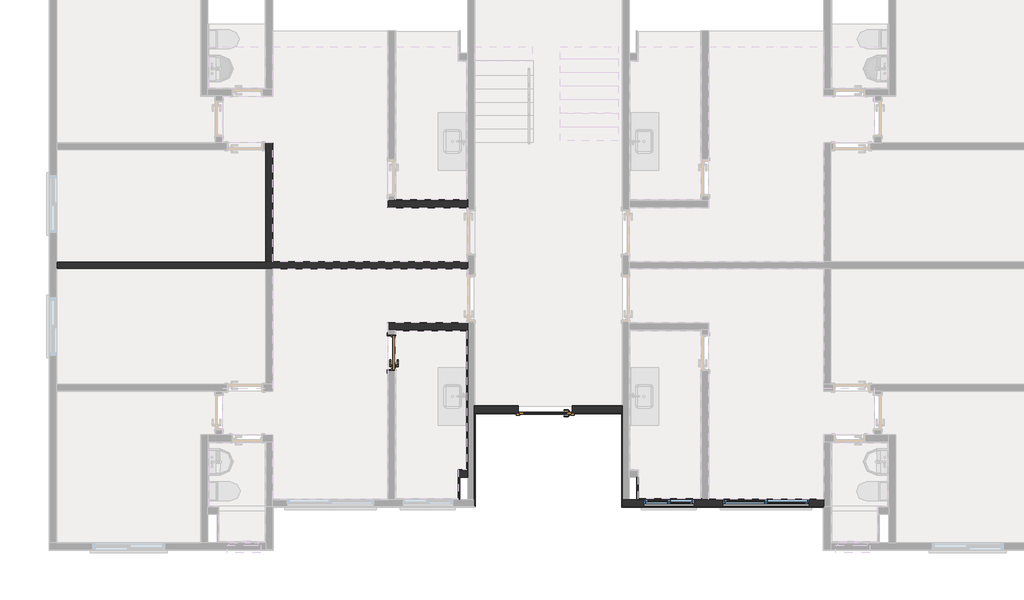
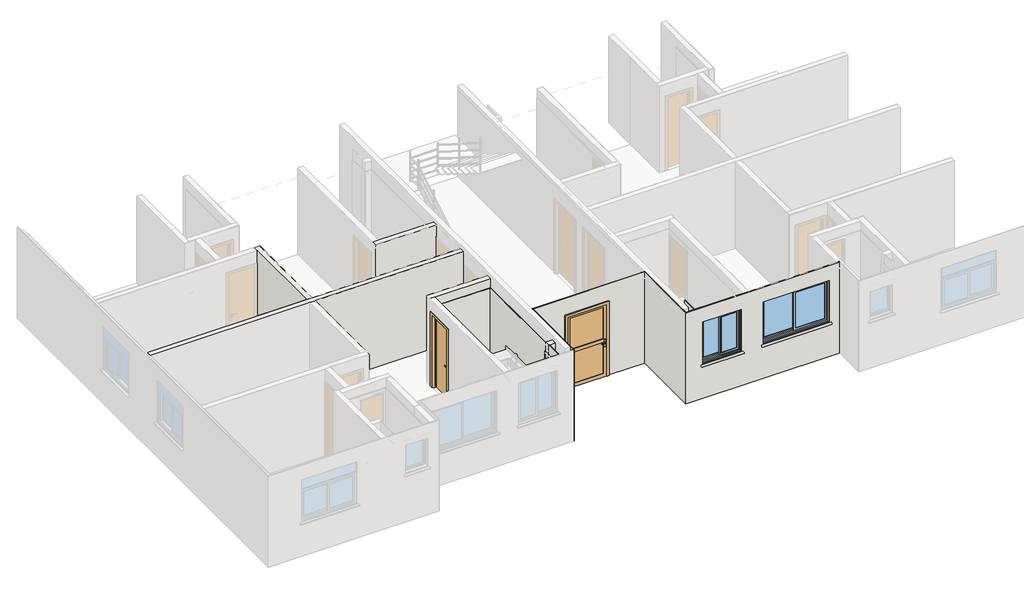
# One storey, part 3 of 11: 29 walls, 2 doors, 2 windows.
"""IFC4 building model written with IfcOpenShell, lengths in millimetres."""

from ifc_helpers import new_model, si_unit, frame, origin, origin_with_axes, place, context, project, spatial, polyline, outline, extrude, faceted_brep, transform, mapped, element, save
from components import porta_de_entrada_torre_110x210_d7ea5157, porta_de_madeira_interna_70_x_210_porta_de_madeira_interna_f307109d, window_105x120_428ac20c, window_180x120_e659ab7e

model = new_model("IFC4")

# Units and contexts
model_context = context("Model", 3, world=origin())
ifc_project = project(units=[si_unit("LENGTHUNIT", "METRE", prefix="MILLI")], contexts=[model_context])

# Site, building, storey
site = spatial("IfcSite", under=ifc_project)
building = spatial("IfcBuilding", under=site)
storey = spatial("IfcBuildingStorey", under=building, Name="Térreo", Elevation=0.0)

# Doors
placement = place(None, origin())
porta_de_entrada_torre_110x210_shape = porta_de_entrada_torre_110x210_d7ea5157(model_context)
element("IfcDoor", 1, ObjectType="Porta de Entrada Torre : 110x210", at=placement, inside=storey, context=model_context, shape_type="MappedRepresentation", body=[
    mapped(porta_de_entrada_torre_110x210_shape, transform((10345.9990083, 3322.00443, 0.0), x_axis=(-1.0, 0.0, 0.0), y_axis=(0.0, -1.0, 0.0), z_axis=(0.0, 0.0, 1.0))),
])
porta_de_madeira_interna_70_x_210_porta_de_madeira_interna_shape = porta_de_madeira_interna_70_x_210_porta_de_madeira_interna_f307109d(model_context)
element("IfcDoor", 2, ObjectType="Porta de Madeira Interna 70 x 210 : Porta de Madeira Interna 70 x 210", at=placement, inside=storey, context=model_context, shape_type="MappedRepresentation", body=[
    mapped(porta_de_madeira_interna_70_x_210_porta_de_madeira_interna_shape, transform((7146.1736861, 4578.6603139, 0.0), x_axis=(0.0, 1.0, 0.0), y_axis=(-1.0, 0.0, 0.0), z_axis=(0.0, 0.0, 1.0))),
])

# Walls
element("IfcWall", 3, ObjectType="Alvenaria Estrutural", at=placement, inside=storey, context=model_context, shape_type="Brep", body=[
    faceted_brep([(175.9991825, 6330.0103139, 0.0), (169.9991825, 6330.0103139, 0.0), (169.9991825, 6470.0103139, 0.0), (175.9991825, 6470.0103139, 0.0), (4523.9996867, 6470.0103139, 0.0), (4529.9996867, 6470.0103139, 0.0), (4669.9996867, 6470.0103139, 0.0), (4675.9996867, 6470.0103139, 0.0), (8723.9963008, 6470.0103139, 0.0), (8729.9963008, 6470.0103139, 0.0), (8729.9963008, 6330.0103139, 0.0), (8723.9963008, 6330.0103139, 0.0), (4675.9996867, 6330.0103139, 0.0), (4669.9996867, 6330.0103139, 0.0), (4529.9996867, 6330.0103139, 0.0), (4523.9996867, 6330.0103139, 0.0), (169.9991825, 6470.0103139, 2510.0), (175.9991825, 6470.0103139, 2510.0), (4523.9996867, 6470.0103139, 2510.0), (4529.9996867, 6470.0103139, 2510.0), (4669.9996867, 6470.0103139, 2510.0), (4675.9996867, 6470.0103139, 2510.0), (8723.9963008, 6470.0103139, 2510.0), (8729.9963008, 6470.0103139, 2510.0), (8729.9963008, 6330.0103139, 2510.0), (8723.9963008, 6330.0103139, 2510.0), (4675.9996867, 6330.0103139, 2510.0), (4669.9996867, 6330.0103139, 2510.0), (4529.9996867, 6330.0103139, 2510.0), (4523.9996867, 6330.0103139, 2510.0), (175.9991825, 6330.0103139, 2510.0), (169.9991825, 6330.0103139, 2510.0)], [[[0, 1, 2, 3, 4, 5, 6, 7, 8, 9, 10, 11, 12, 13, 14, 15]], [[2, 16, 17, 18, 19, 20, 21, 22, 23, 9, 8, 7, 6, 5, 4, 3]], [[1, 0, 15, 14, 13, 12, 11, 10, 24, 25, 26, 27, 28, 29, 30, 31]], [[25, 24, 23, 22, 21, 20, 19, 18, 17, 16, 31, 30, 29, 28, 27, 26]], [[24, 10, 9, 23]], [[1, 31, 16, 2]]]),
    faceted_brep([(169.9991825, 6330.0103139, 0.0), (175.9991825, 6330.0103139, 0.0), (4523.9996867, 6330.0103139, 0.0), (4529.9996867, 6330.0103139, 0.0), (4669.9996867, 6330.0103139, 0.0), (4675.9996867, 6330.0103139, 0.0), (8723.9963008, 6330.0103139, 0.0), (8729.9963008, 6330.0103139, 0.0), (8729.9963008, 6330.0103139, 2510.0), (8723.9963008, 6330.0103139, 2510.0), (4675.9996867, 6330.0103139, 2510.0), (4669.9996867, 6330.0103139, 2510.0), (4529.9996867, 6330.0103139, 2510.0), (4523.9996867, 6330.0103139, 2510.0), (175.9991825, 6330.0103139, 2510.0), (169.9991825, 6330.0103139, 2510.0), (169.9991825, 6470.0103139, 0.0), (169.9991825, 6470.0103139, 2510.0), (175.9991825, 6470.0103139, 2510.0), (4523.9996867, 6470.0103139, 2510.0), (4529.9996867, 6470.0103139, 2510.0), (4669.9996867, 6470.0103139, 2510.0), (4675.9996867, 6470.0103139, 2510.0), (8723.9963008, 6470.0103139, 2510.0), (8729.9963008, 6470.0103139, 2510.0), (8729.9963008, 6470.0103139, 0.0), (8723.9963008, 6470.0103139, 0.0), (4675.9996867, 6470.0103139, 0.0), (4669.9996867, 6470.0103139, 0.0), (4529.9996867, 6470.0103139, 0.0), (4523.9996867, 6470.0103139, 0.0), (175.9991825, 6470.0103139, 0.0)], [[[0, 1, 2, 3, 4, 5, 6, 7, 8, 9, 10, 11, 12, 13, 14, 15]], [[16, 17, 18, 19, 20, 21, 22, 23, 24, 25, 26, 27, 28, 29, 30, 31]], [[1, 0, 16, 31, 30, 29, 28, 27, 26, 25, 7, 6, 5, 4, 3, 2]], [[9, 8, 24, 23, 22, 21, 20, 19, 18, 17, 15, 14, 13, 12, 11, 10]], [[8, 7, 25, 24]], [[0, 15, 17, 16]]]),
])
element("IfcWall", 4, ObjectType="Alvenaria Estrutural", at=placement, inside=storey, context=model_context, shape_type="Brep", body=[
    faceted_brep([(4669.9996867, 6476.0103139, 0.0), (4669.9996867, 6470.0103139, 0.0), (4529.9996867, 6470.0103139, 0.0), (4529.9996867, 6476.0103139, 0.0), (4529.9996867, 8804.0244803, 0.0), (4529.9996867, 8810.0244803, 0.0), (4529.9996867, 8950.0244803, 0.0), (4669.9996867, 8950.0244803, 0.0), (4669.9996867, 6476.0103139, 2510.0), (4669.9996867, 8950.0244803, 2510.0), (4529.9996867, 8950.0244803, 2510.0), (4529.9996867, 8810.0244803, 2510.0), (4529.9996867, 8804.0244803, 2510.0), (4529.9996867, 6476.0103139, 2510.0), (4529.9996867, 6470.0103139, 2510.0), (4669.9996867, 6470.0103139, 2510.0)], [[[0, 1, 2, 3, 4, 5, 6, 7]], [[8, 9, 10, 11, 12, 13, 14, 15]], [[1, 0, 7, 9, 8, 15]], [[2, 14, 13, 12, 11, 10, 6, 5, 4, 3]], [[9, 7, 6, 10]], [[1, 15, 14, 2]]]),
    faceted_brep([(4669.9996867, 6470.0103139, 0.0), (4669.9996867, 6476.0103139, 0.0), (4669.9996867, 8950.0244803, 0.0), (4669.9996867, 8950.0244803, 2510.0), (4669.9996867, 6476.0103139, 2510.0), (4669.9996867, 6470.0103139, 2510.0), (4529.9996867, 6470.0103139, 0.0), (4529.9996867, 6470.0103139, 2510.0), (4529.9996867, 6476.0103139, 2510.0), (4529.9996867, 8804.0244803, 2510.0), (4529.9996867, 8810.0244803, 2510.0), (4529.9996867, 8950.0244803, 2510.0), (4529.9996867, 8950.0244803, 0.0), (4529.9996867, 8810.0244803, 0.0), (4529.9996867, 8804.0244803, 0.0), (4529.9996867, 6476.0103139, 0.0)], [[[0, 1, 2, 3, 4, 5]], [[6, 7, 8, 9, 10, 11, 12, 13, 14, 15]], [[1, 0, 6, 15, 14, 13, 12, 2]], [[4, 3, 11, 10, 9, 8, 7, 5]], [[3, 2, 12, 11]], [[0, 5, 7, 6]]]),
])
element("IfcWall", 5, ObjectType="Alvenaria Estrutural", at=placement, inside=storey, context=model_context, shape_type="Brep", body=[
    faceted_brep([(8886.0600094, 3330.00443, 0.0), (8869.9953936, 3330.00443, 0.0), (8869.9953936, 3470.00443, 0.0), (8875.9991022, 3470.00443, 0.0), (9785.9990083, 3470.00443, 0.0), (9785.9990083, 3330.00443, 0.0), (9745.9990083, 3330.00443, 0.0), (8869.9953936, 3330.00443, 2510.0), (8869.9953936, 3470.00443, 2510.0), (11944.9956991, 3330.00443, 2510.0), (11944.9956991, 3470.00443, 2510.0), (11943.9984066, 3470.00443, 2510.0), (8875.9991022, 3470.00443, 2510.0), (10945.9990083, 3330.00443, 0.0), (10905.9990083, 3330.00443, 0.0), (10905.9990083, 3470.00443, 0.0), (11943.9984066, 3470.00443, 0.0), (11944.9956991, 3470.00443, 0.0), (11944.9956991, 3330.00443, 0.0), (11933.9956991, 3330.00443, 0.0), (9785.9990083, 3330.00443, 2110.0), (10905.9990083, 3330.00443, 2110.0), (10905.9990083, 3470.00443, 2110.0), (9785.9990083, 3470.00443, 2110.0)], [[[0, 1, 2, 3, 4, 5, 6]], [[1, 7, 8, 2]], [[7, 9, 10, 11, 12, 8]], [[13, 14, 15, 16, 17, 18, 19]], [[7, 1, 0, 6, 5, 20, 21, 14, 13, 19, 18, 9]], [[2, 8, 12, 11, 10, 17, 16, 15, 22, 23, 4, 3]], [[9, 18, 17, 10]], [[21, 20, 23, 22]], [[14, 21, 22, 15]], [[20, 5, 4, 23]]]),
    faceted_brep([(8869.9953936, 3330.00443, 2510.0), (8869.9953936, 3330.00443, 0.0), (8886.0600094, 3330.00443, 0.0), (9745.9990083, 3330.00443, 0.0), (9785.9990083, 3330.00443, 0.0), (9785.9990083, 3330.00443, 2110.0), (10905.9990083, 3330.00443, 2110.0), (10905.9990083, 3330.00443, 0.0), (10945.9990083, 3330.00443, 0.0), (11933.9956991, 3330.00443, 0.0), (11944.9956991, 3330.00443, 0.0), (11944.9956991, 3330.00443, 2510.0), (8869.9953936, 3470.00443, 0.0), (8869.9953936, 3470.00443, 2510.0), (8875.9991022, 3470.00443, 2510.0), (11943.9984066, 3470.00443, 2510.0), (11944.9956991, 3470.00443, 2510.0), (11944.9956991, 3470.00443, 0.0), (11943.9984066, 3470.00443, 0.0), (10905.9990083, 3470.00443, 0.0), (10905.9990083, 3470.00443, 2110.0), (9785.9990083, 3470.00443, 2110.0), (9785.9990083, 3470.00443, 0.0), (8875.9991022, 3470.00443, 0.0)], [[[0, 1, 2, 3, 4, 5, 6, 7, 8, 9, 10, 11]], [[12, 13, 14, 15, 16, 17, 18, 19, 20, 21, 22, 23]], [[2, 1, 12, 23, 22, 4, 3]], [[1, 0, 13, 12]], [[0, 11, 16, 15, 14, 13]], [[6, 5, 21, 20]], [[7, 6, 20, 19]], [[5, 4, 22, 21]], [[8, 7, 19, 18, 17, 10, 9]], [[11, 10, 17, 16]]]),
])
element("IfcWall", 6, ObjectType="Alvenaria Estrutural", at=placement, inside=storey, context=model_context, shape_type="Brep", body=[
    faceted_brep([(8729.9963008, 2125.0132549, 0.0), (8709.9963008, 2125.0132549, 0.0), (8546.99631, 2125.0132549, 0.0), (8546.99631, 2125.0132549, 2510.0), (8729.9963008, 2125.0132549, 2510.0), (8729.9963008, 2125.0132549, 2250.0), (8729.9963008, 1985.0132549, 0.0), (8569.99631, 1985.0132549, 0.0), (8546.99631, 1985.0132549, 0.0), (8546.99631, 1985.0132549, 2510.0), (8569.99631, 1985.0132549, 2510.0), (8729.9963008, 1985.0132549, 2510.0)], [[[0, 1, 2, 3, 4, 5]], [[1, 0, 6, 7, 8, 2]], [[4, 3, 9, 10, 11]], [[6, 11, 10, 9, 8, 7]], [[3, 2, 8, 9]], [[5, 4, 11, 6, 0]]]),
    faceted_brep([(8729.9963008, 2125.0132549, 0.0), (8709.9963008, 2125.0132549, 0.0), (8546.99631, 2125.0132549, 0.0), (8546.99631, 2125.0132549, 2510.0), (8729.9963008, 2125.0132549, 2510.0), (8729.9963008, 2125.0132549, 2250.0), (8729.9963008, 1985.0132549, 0.0), (8729.9963008, 1985.0132549, 2510.0), (8569.99631, 1985.0132549, 2510.0), (8546.99631, 1985.0132549, 2510.0), (8546.99631, 1985.0132549, 0.0), (8569.99631, 1985.0132549, 0.0)], [[[0, 1, 2, 3, 4, 5]], [[6, 7, 8, 9, 10, 11]], [[1, 0, 6, 11, 10, 2]], [[4, 3, 9, 8, 7]], [[3, 2, 10, 9]], [[5, 4, 7, 6, 0]]]),
])
element("IfcWall", 7, ObjectType="Alvenaria Estrutural", at=placement, inside=storey, context=model_context, shape_type="Brep", body=[
    faceted_brep([(8729.9963008, 5193.6603139, 0.0), (8723.9963008, 5193.6603139, 0.0), (7072.9986861, 5193.6603139, 0.0), (7072.9986861, 5193.6603139, 2510.0), (8723.9963008, 5193.6603139, 2510.0), (8729.9963008, 5193.6603139, 2510.0), (8729.9963008, 5053.6603139, 0.0), (8729.9963008, 5053.6603139, 2250.0), (8729.9963008, 5053.6603139, 2510.0), (7212.9986861, 5053.6603139, 2510.0), (7072.9986861, 5053.6603139, 2510.0), (7072.9986861, 5053.6603139, 0.0), (7212.9986861, 5053.6603139, 0.0), (7233.0017324, 5053.6603139, 0.0), (8709.9963008, 5053.6603139, 0.0)], [[[0, 1, 2, 3, 4, 5]], [[6, 7, 8, 9, 10, 11, 12, 13, 14]], [[1, 0, 6, 14, 13, 12, 11, 2]], [[4, 3, 10, 9, 8, 5]], [[3, 2, 11, 10]], [[0, 5, 8, 7, 6]]]),
])
element("IfcWall", 8, ObjectType="Alvenaria Estrutural", at=placement, inside=storey, context=model_context, shape_type="Brep", body=[
    faceted_brep([(8729.9963008, 7746.3603139, 0.0), (8709.9963008, 7746.3603139, 0.0), (7233.0017324, 7746.3603139, 0.0), (7212.9986861, 7746.3603139, 0.0), (7072.9986861, 7746.3603139, 0.0), (7072.9986861, 7746.3603139, 2510.0), (7212.9986861, 7746.3603139, 2510.0), (8729.9963008, 7746.3603139, 2510.0), (8729.9963008, 7746.3603139, 2250.0), (8729.9963008, 7606.3603139, 0.0), (8729.9963008, 7606.3603139, 2510.0), (8723.9963008, 7606.3603139, 2510.0), (7072.9986861, 7606.3603139, 2510.0), (7072.9986861, 7606.3603139, 0.0), (8723.9963008, 7606.3603139, 0.0)], [[[0, 1, 2, 3, 4, 5, 6, 7, 8]], [[9, 10, 11, 12, 13, 14]], [[1, 0, 9, 14, 13, 4, 3, 2]], [[6, 5, 12, 11, 10, 7]], [[5, 4, 13, 12]], [[8, 7, 10, 9, 0]]]),
])
element("IfcWall", 9, ObjectType="Alvenaria Estrutural", at=placement, inside=storey, context=model_context, shape_type="Brep", body=[
    faceted_brep([(11949.9956991, 1519.9983274, 2520.0), (11949.9956991, 1519.9983274, 10.0), (11949.9956991, 1379.9983274, 10.0), (11949.9956991, 1379.9983274, 2520.0), (16149.9956991, 1519.9983274, 2520.0), (16149.9956991, 1379.9983274, 2520.0), (16149.9956991, 1519.9983274, 2510.0), (16149.9956991, 1379.9983274, 10.0), (16149.9956991, 1449.9983274, 10.0), (16149.9956991, 1519.9983274, 10.0), (12344.9954974, 1379.9983274, 1000.0), (12344.9954974, 1379.9983274, 951.3083694), (12344.9954974, 1477.4983274, 972.0326341), (12344.9954974, 1477.4983274, 1000.0), (13494.9954974, 1379.9983274, 951.3083694), (13494.9954974, 1379.9983274, 1000.0), (13494.9954974, 1477.4983274, 1000.0), (13494.9954974, 1477.4983274, 972.0326341), (13444.9954974, 1477.4983274, 1000.0), (12394.9954974, 1477.4983274, 1000.0), (12394.9954974, 1379.9983274, 1000.0), (12394.9954974, 1519.9983274, 1000.0), (12394.9954974, 1519.9983274, 2200.0), (12394.9954974, 1379.9983274, 2200.0), (13444.9954974, 1519.9983274, 2200.0), (13444.9954974, 1379.9983274, 2200.0), (13444.9954974, 1519.9983274, 1000.0), (13444.9954974, 1379.9983274, 1000.0), (16133.9960602, 1379.9983274, 10.0), (15894.9954574, 1379.9983274, 1000.0), (15894.9954574, 1379.9983274, 951.3083694), (13994.9954574, 1379.9983274, 951.3083694), (13994.9954574, 1379.9983274, 1000.0), (14044.9954574, 1379.9983274, 1000.0), (14044.9954574, 1379.9983274, 2200.0), (15844.9954574, 1379.9983274, 2200.0), (15844.9954574, 1379.9983274, 1000.0), (16143.9956991, 1519.9983274, 10.0), (14044.9954574, 1519.9983274, 2200.0), (14044.9954574, 1519.9983274, 1000.0), (15844.9954574, 1519.9983274, 1000.0), (15844.9954574, 1519.9983274, 2200.0), (15894.9954574, 1477.4983274, 1000.0), (15894.9954574, 1477.4983274, 972.0326341), (13994.9954574, 1477.4983274, 972.0326341), (13994.9954574, 1477.4983274, 1000.0), (15844.9954574, 1477.4983274, 1000.0), (14044.9954574, 1477.4983274, 1000.0)], [[[0, 1, 2, 3]], [[4, 0, 3, 5]], [[6, 4, 5, 7, 8, 9]], [[10, 11, 12, 13]], [[14, 15, 16, 17]], [[13, 12, 17, 16, 18, 19]], [[20, 10, 13, 19]], [[11, 14, 17, 12]], [[21, 22, 23, 20, 19]], [[22, 24, 25, 23]], [[24, 26, 18, 27, 25]], [[26, 21, 19, 18]], [[15, 27, 18, 16]], [[7, 5, 3, 2, 28], [29, 30, 31, 32, 33, 34, 35, 36], [20, 23, 25, 27, 15, 14, 11, 10]], [[1, 0, 4, 6, 9, 37], [22, 21, 26, 24], [38, 39, 40, 41]], [[30, 29, 42, 43]], [[32, 31, 44, 45]], [[43, 42, 46, 47, 45, 44]], [[29, 36, 46, 42]], [[31, 30, 43, 44]], [[39, 38, 34, 33, 47]], [[38, 41, 35, 34]], [[41, 40, 46, 36, 35]], [[40, 39, 47, 46]], [[33, 32, 45, 47]], [[37, 9, 8, 7, 28, 2, 1]]]),
    faceted_brep([(16149.9956991, 1519.9983274, 10.0), (16143.9956991, 1519.9983274, 10.0), (11949.9956991, 1519.9983274, 10.0), (11949.9956991, 1519.9983274, 2520.0), (16149.9956991, 1519.9983274, 2520.0), (16149.9956991, 1519.9983274, 2510.0), (12394.9954974, 1519.9983274, 2200.0), (12394.9954974, 1519.9983274, 1000.0), (13444.9954974, 1519.9983274, 1000.0), (13444.9954974, 1519.9983274, 2200.0), (14044.9954574, 1519.9983274, 2200.0), (14044.9954574, 1519.9983274, 1000.0), (15844.9954574, 1519.9983274, 1000.0), (15844.9954574, 1519.9983274, 2200.0), (11949.9956991, 1379.9983274, 10.0), (16133.9960602, 1379.9983274, 10.0), (16149.9956991, 1379.9983274, 10.0), (16149.9956991, 1379.9983274, 2520.0), (11949.9956991, 1379.9983274, 2520.0), (12394.9954974, 1379.9983274, 1000.0), (12394.9954974, 1379.9983274, 2200.0), (13444.9954974, 1379.9983274, 2200.0), (13444.9954974, 1379.9983274, 1000.0), (13494.9954974, 1379.9983274, 1000.0), (13494.9954974, 1379.9983274, 951.3083694), (12344.9954974, 1379.9983274, 951.3083694), (12344.9954974, 1379.9983274, 1000.0), (15894.9954574, 1379.9983274, 1000.0), (15894.9954574, 1379.9983274, 951.3083694), (13994.9954574, 1379.9983274, 951.3083694), (13994.9954574, 1379.9983274, 1000.0), (14044.9954574, 1379.9983274, 1000.0), (14044.9954574, 1379.9983274, 2200.0), (15844.9954574, 1379.9983274, 2200.0), (15844.9954574, 1379.9983274, 1000.0), (16149.9956991, 1449.9983274, 10.0), (12344.9954974, 1477.4983274, 972.0326341), (12344.9954974, 1477.4983274, 1000.0), (13494.9954974, 1477.4983274, 1000.0), (13494.9954974, 1477.4983274, 972.0326341), (13444.9954974, 1477.4983274, 1000.0), (12394.9954974, 1477.4983274, 1000.0), (15894.9954574, 1477.4983274, 1000.0), (15894.9954574, 1477.4983274, 972.0326341), (13994.9954574, 1477.4983274, 972.0326341), (13994.9954574, 1477.4983274, 1000.0), (15844.9954574, 1477.4983274, 1000.0), (14044.9954574, 1477.4983274, 1000.0)], [[[0, 1, 2, 3, 4, 5], [6, 7, 8, 9], [10, 11, 12, 13]], [[14, 15, 16, 17, 18], [19, 20, 21, 22, 23, 24, 25, 26], [27, 28, 29, 30, 31, 32, 33, 34]], [[1, 0, 35, 16, 15, 14, 2]], [[3, 2, 14, 18]], [[4, 3, 18, 17]], [[5, 4, 17, 16, 35, 0]], [[26, 25, 36, 37]], [[24, 23, 38, 39]], [[37, 36, 39, 38, 40, 41]], [[19, 26, 37, 41]], [[25, 24, 39, 36]], [[7, 6, 20, 19, 41]], [[6, 9, 21, 20]], [[9, 8, 40, 22, 21]], [[8, 7, 41, 40]], [[28, 27, 42, 43]], [[30, 29, 44, 45]], [[43, 42, 46, 47, 45, 44]], [[27, 34, 46, 42]], [[29, 28, 43, 44]], [[11, 10, 32, 31, 47]], [[10, 13, 33, 32]], [[13, 12, 46, 34, 33]], [[12, 11, 47, 46]], [[31, 30, 45, 47]], [[23, 22, 40, 38]]]),
])
element("IfcWall", 10, ObjectType="Azulejo", at=placement, inside=storey, context=model_context, shape_type="SweptSolid", body=[
    extrude(outline(polyline([(8729.9963008, 5033.6603139), (7212.9986861, 5033.6603139), (7212.9986861, 5043.6603139), (8729.9963008, 5043.6603139), (8729.9963008, 5033.6603139)])), origin_with_axes(), (0.0, 0.0, 1.0), 2250.0),
    extrude(outline(polyline([(7212.9986861, 5053.6603139), (8729.9963008, 5053.6603139), (8729.9963008, 5043.6603139), (7212.9986861, 5043.6603139), (7212.9986861, 5053.6603139)])), origin_with_axes(), (0.0, 0.0, 1.0), 2250.0),
])
element("IfcWall", 11, ObjectType="Azulejo", at=placement, inside=storey, context=model_context, shape_type="SweptSolid", body=[
    extrude(outline(polyline([(8709.9963008, 2125.0132549), (8709.9963008, 5053.6603139), (8719.9963008, 5053.6603139), (8719.9963008, 2125.0132549), (8709.9963008, 2125.0132549)])), origin_with_axes(), (0.0, 0.0, 1.0), 2250.0),
    extrude(outline(polyline([(8729.9963008, 5053.6603139), (8729.9963008, 2125.0132549), (8719.9963008, 2125.0132549), (8719.9963008, 5053.6603139), (8729.9963008, 5053.6603139)])), origin_with_axes(), (0.0, 0.0, 1.0), 2250.0),
])
element("IfcWall", 12, ObjectType="Azulejo", at=placement, inside=storey, context=model_context, shape_type="SolidModel", body=[
    extrude(outline(polyline([(8536.99631, 2145.0132549), (8729.9963008, 2145.0132549), (8729.9963008, 2135.0132549), (8536.99631, 2135.0132549), (8536.99631, 2145.0132549)])), origin_with_axes(), (0.0, 0.0, 1.0), 2250.0),
    faceted_brep([(8729.9963008, 2135.0132549, 0.0), (8546.99631, 2135.0132549, 0.0), (8546.99631, 2135.0132549, 2250.0), (8729.9963008, 2135.0132549, 2250.0), (8546.99631, 2125.0132549, 0.0), (8556.99631, 2125.0132549, 0.0), (8729.9963008, 2125.0132549, 0.0), (8729.9963008, 2125.0132549, 2250.0), (8556.99631, 2125.0132549, 2250.0), (8546.99631, 2125.0132549, 2250.0)], [[[0, 1, 2, 3]], [[4, 5, 6, 7, 8, 9]], [[5, 4, 1, 0, 6]], [[8, 7, 3, 2, 9]], [[7, 6, 0, 3]], [[4, 9, 2, 1]]]),
])
element("IfcWall", 13, ObjectType="Azulejo", at=placement, inside=storey, context=model_context, shape_type="SweptSolid", body=[
    extrude(outline(polyline([(8536.99631, 1985.0132549), (8536.99631, 2135.0132549), (8546.99631, 2135.0132549), (8546.99631, 1985.0132549), (8536.99631, 1985.0132549)])), origin_with_axes(), (0.0, 0.0, 1.0), 2250.0),
    extrude(outline(polyline([(8556.99631, 2125.0132549), (8556.99631, 1985.0132549), (8546.99631, 1985.0132549), (8546.99631, 2125.0132549), (8556.99631, 2125.0132549)])), origin_with_axes(), (0.0, 0.0, 1.0), 2250.0),
])
element("IfcWall", 14, ObjectType="Azulejo", at=placement, inside=storey, context=model_context, shape_type="SweptSolid", body=[
    extrude(outline(polyline([(7212.9986861, 7766.3603139), (8729.9963008, 7766.3603139), (8729.9963008, 7756.3603139), (7212.9986861, 7756.3603139), (7212.9986861, 7766.3603139)])), origin_with_axes(), (0.0, 0.0, 1.0), 2250.0),
    extrude(outline(polyline([(8729.9963008, 7746.3603139), (7212.9986861, 7746.3603139), (7212.9986861, 7756.3603139), (8729.9963008, 7756.3603139), (8729.9963008, 7746.3603139)])), origin_with_axes(), (0.0, 0.0, 1.0), 2250.0),
])
element("IfcWall", 15, ObjectType="Azulejo", at=placement, inside=storey, context=model_context, shape_type="SolidModel", body=[
    faceted_brep([(12282.9983974, 1539.9983274, 0.0), (13606.9960213, 1539.9983274, 0.0), (13606.9960213, 1529.9983274, 0.0), (12272.9983974, 1529.9983274, 0.0), (12272.9983974, 1539.9983274, 0.0), (12282.9983974, 1539.9983274, 2250.0), (12272.9983974, 1539.9983274, 2250.0), (12272.9983974, 1529.9983274, 2250.0), (13606.9960213, 1529.9983274, 2250.0), (13606.9960213, 1539.9983274, 2250.0), (12394.9954974, 1539.9983274, 1000.0), (12394.9954974, 1539.9983274, 2200.0), (12394.9954974, 1529.9983274, 2200.0), (12394.9954974, 1529.9983274, 1000.0), (13444.9954974, 1539.9983274, 2200.0), (13444.9954974, 1529.9983274, 2200.0), (13444.9954974, 1539.9983274, 1000.0), (13444.9954974, 1529.9983274, 1000.0)], [[[0, 1, 2, 3, 4]], [[5, 6, 7, 8, 9]], [[10, 11, 12, 13]], [[11, 14, 15, 12]], [[14, 16, 17, 15]], [[16, 10, 13, 17]], [[1, 9, 8, 2]], [[6, 4, 3, 7]], [[3, 2, 8, 7], [13, 12, 15, 17]], [[1, 0, 4, 6, 5, 9], [10, 16, 14, 11]]]),
    extrude(outline(polyline([(0.0, 13606.9960213), (2250.0, 13606.9960213), (2250.0, 12272.9983974), (0.0, 12272.9983974), (0.0, 13606.9960213)]), holes=[polyline([(1000.0, 12394.9954974), (2200.0, 12394.9954974), (2200.0, 13444.9954974), (1000.0, 13444.9954974), (1000.0, 12394.9954974)])]), frame((0.0, 1519.9983274, 0.0), z_axis=(0.0, 1.0, 0.0), x_axis=(0.0, 0.0, 1.0)), (0.0, 0.0, 1.0), 10.0),
])
element("IfcWall", 16, ObjectType="Azulejo - Shaft", at=placement, inside=storey, context=model_context, shape_type="SweptSolid", body=[
    extrude(outline(polyline([(8546.99631, 1985.0132549), (8546.99631, 1539.9983274), (8536.99631, 1539.9983274), (8536.99631, 1985.0132549), (8546.99631, 1985.0132549)])), origin_with_axes(), (0.0, 0.0, 1.0), 2250.0),
])
element("IfcWall", 17, ObjectType="Azulejo - Shaft", at=placement, inside=storey, context=model_context, shape_type="SweptSolid", body=[
    extrude(outline(polyline([(12282.9983974, 1985.0132549), (12282.9983974, 1539.9983274), (12272.9983974, 1539.9983274), (12272.9983974, 1985.0132549), (12282.9983974, 1985.0132549)])), origin_with_axes(), (0.0, 0.0, 1.0), 2250.0),
])
element("IfcWall", 18, ObjectType="Gesso Liso + Pintura", at=placement, inside=storey, context=model_context, shape_type="SweptSolid", body=[
    extrude(outline(polyline([(4523.9996867, 6470.0103139), (4523.9996867, 8810.0244803), (4524.9996867, 8810.0244803), (4524.9996867, 6470.0103139), (4523.9996867, 6470.0103139)])), origin_with_axes(), (0.0, 0.0, 1.0), 2510.0),
    extrude(outline(polyline([(4529.9996867, 8810.0244803), (4529.9996867, 6470.0103139), (4524.9996867, 6470.0103139), (4524.9996867, 8810.0244803), (4529.9996867, 8810.0244803)])), origin_with_axes(), (0.0, 0.0, 1.0), 2510.0),
])
element("IfcWall", 19, ObjectType="Gesso Liso + Pintura", at=placement, inside=storey, context=model_context, shape_type="SweptSolid", body=[
    extrude(outline(polyline([(8729.9963008, 6324.0103139), (4669.9996867, 6324.0103139), (4669.9996867, 6325.0103139), (8729.9963008, 6325.0103139), (8729.9963008, 6324.0103139)])), origin_with_axes(), (0.0, 0.0, 1.0), 2510.0),
    extrude(outline(polyline([(4669.9996867, 6330.0103139), (8729.9963008, 6330.0103139), (8729.9963008, 6325.0103139), (4669.9996867, 6325.0103139), (4669.9996867, 6330.0103139)])), origin_with_axes(), (0.0, 0.0, 1.0), 2510.0),
])
element("IfcWall", 20, ObjectType="Gesso Liso + Pintura", at=placement, inside=storey, context=model_context, shape_type="SolidModel", body=[
    extrude(outline(polyline([(7066.9986861, 5199.6603139), (8723.9963008, 5199.6603139), (8723.9963008, 5198.6603139), (7066.9986861, 5198.6603139), (7066.9986861, 5199.6603139)])), origin_with_axes(), (0.0, 0.0, 1.0), 2510.0),
    faceted_brep([(8724.9963008, 5198.6603139, 0.0), (7067.9986861, 5198.6603139, 0.0), (7067.9986861, 5198.6603139, 2510.0), (8724.9963008, 5198.6603139, 2510.0), (7067.9986861, 5193.6603139, 0.0), (7072.9986861, 5193.6603139, 0.0), (8724.9963008, 5193.6603139, 0.0), (8724.9963008, 5193.6603139, 2510.0), (7072.9986861, 5193.6603139, 2510.0), (7067.9986861, 5193.6603139, 2510.0)], [[[0, 1, 2, 3]], [[4, 5, 6, 7, 8, 9]], [[5, 4, 1, 0, 6]], [[8, 7, 3, 2, 9]], [[7, 6, 0, 3]], [[4, 9, 2, 1]]]),
])
element("IfcWall", 21, ObjectType="Gesso Liso + Pintura", at=placement, inside=storey, context=model_context, shape_type="SolidModel", body=[
    extrude(outline(polyline([(4675.9996867, 8956.0244803), (4675.9996867, 6470.0103139), (4674.9996867, 6470.0103139), (4674.9996867, 8956.0244803), (4675.9996867, 8956.0244803)])), origin_with_axes(), (0.0, 0.0, 1.0), 2510.0),
    faceted_brep([(4674.9996867, 6470.0103139, 0.0), (4674.9996867, 8955.0244803, 0.0), (4674.9996867, 8955.0244803, 2510.0), (4674.9996867, 6470.0103139, 2510.0), (4669.9996867, 8955.0244803, 0.0), (4669.9996867, 8950.0244803, 0.0), (4669.9996867, 6470.0103139, 0.0), (4669.9996867, 6470.0103139, 2510.0), (4669.9996867, 8950.0244803, 2510.0), (4669.9996867, 8955.0244803, 2510.0)], [[[0, 1, 2, 3]], [[4, 5, 6, 7, 8, 9]], [[5, 4, 1, 0, 6]], [[8, 7, 3, 2, 9]], [[7, 6, 0, 3]], [[4, 9, 2, 1]]]),
])
element("IfcWall", 22, ObjectType="Gesso Liso + Pintura", at=placement, inside=storey, context=model_context, shape_type="SweptSolid", body=[
    extrude(outline(polyline([(4669.9996867, 6476.0103139), (8729.9963008, 6476.0103139), (8729.9963008, 6475.0103139), (4669.9996867, 6475.0103139), (4669.9996867, 6476.0103139)])), origin_with_axes(), (0.0, 0.0, 1.0), 2510.0),
    extrude(outline(polyline([(8729.9963008, 6470.0103139), (4669.9996867, 6470.0103139), (4669.9996867, 6475.0103139), (8729.9963008, 6475.0103139), (8729.9963008, 6470.0103139)])), origin_with_axes(), (0.0, 0.0, 1.0), 2510.0),
])
element("IfcWall", 23, ObjectType="Gesso Liso + Pintura", at=placement, inside=storey, context=model_context, shape_type="SolidModel", body=[
    extrude(outline(polyline([(8723.9963008, 7600.3603139), (7066.9986861, 7600.3603139), (7066.9986861, 7601.3603139), (8723.9963008, 7601.3603139), (8723.9963008, 7600.3603139)])), origin_with_axes(), (0.0, 0.0, 1.0), 2510.0),
    faceted_brep([(7067.9986861, 7601.3603139, 0.0), (8724.9963008, 7601.3603139, 0.0), (8724.9963008, 7601.3603139, 2510.0), (7067.9986861, 7601.3603139, 2510.0), (7067.9986861, 7606.3603139, 0.0), (7067.9986861, 7606.3603139, 2510.0), (7072.9986861, 7606.3603139, 2510.0), (8724.9963008, 7606.3603139, 2510.0), (8724.9963008, 7606.3603139, 0.0), (7072.9986861, 7606.3603139, 0.0)], [[[0, 1, 2, 3]], [[4, 5, 6, 7, 8, 9]], [[9, 8, 1, 0, 4]], [[6, 5, 3, 2, 7]], [[8, 7, 2, 1]], [[5, 4, 0, 3]]]),
])
element("IfcWall", 24, ObjectType="Gesso Liso + Pintura", at=placement, inside=storey, context=model_context, shape_type="SolidModel", body=[
    extrude(outline(polyline([(0.0, 13746.9960213), (0.0, 16149.9956991), (2510.0, 16149.9956991), (2510.0, 13746.9960213), (0.0, 13746.9960213)]), holes=[polyline([(1000.0, 14044.9954574), (2200.0, 14044.9954574), (2200.0, 15844.9954574), (1000.0, 15844.9954574), (1000.0, 14044.9954574)])]), frame((0.0, 1524.9983274, 0.0), z_axis=(0.0, 1.0, 0.0), x_axis=(0.0, 0.0, 1.0)), (0.0, 0.0, 1.0), 1.0),
    faceted_brep([(16149.9956991, 1524.9983274, 0.0), (13746.9960213, 1524.9983274, 0.0), (13746.9960213, 1524.9983274, 2510.0), (16149.9956991, 1524.9983274, 2510.0), (14044.9954574, 1524.9983274, 2200.0), (14044.9954574, 1524.9983274, 1000.0), (15844.9954574, 1524.9983274, 1000.0), (15844.9954574, 1524.9983274, 2200.0), (13746.9960213, 1519.9983274, 0.0), (16149.9956991, 1519.9983274, 0.0), (16149.9956991, 1519.9983274, 10.0), (16149.9956991, 1519.9983274, 2510.0), (13746.9960213, 1519.9983274, 2510.0), (14044.9954574, 1519.9983274, 1000.0), (14044.9954574, 1519.9983274, 2200.0), (15844.9954574, 1519.9983274, 2200.0), (15844.9954574, 1519.9983274, 1000.0)], [[[0, 1, 2, 3], [4, 5, 6, 7]], [[8, 9, 10, 11, 12], [13, 14, 15, 16]], [[9, 8, 1, 0]], [[12, 11, 3, 2]], [[14, 13, 5, 4]], [[15, 14, 4, 7]], [[16, 15, 7, 6]], [[13, 16, 6, 5]], [[8, 12, 2, 1]], [[10, 9, 0, 3, 11]]]),
])
element("IfcWall", 25, ObjectType="Gesso Liso + Pintura", at=placement, inside=storey, context=model_context, shape_type="SweptSolid", body=[
    extrude(outline(polyline([(0.0, 10905.9990083), (0.0, 11943.9984066), (2510.0, 11943.9984066), (2510.0, 8869.9963008), (0.0, 8869.9963008), (0.0, 9785.9990083), (2110.0, 9785.9990083), (2110.0, 10905.9990083), (0.0, 10905.9990083)])), frame((0.0, 3473.9995833, 0.0), z_axis=(0.0, 1.0, 0.0), x_axis=(0.0, 0.0, 1.0)), (0.0, 0.0, 1.0), 1.0),
    extrude(outline(polyline([(0.0, 10905.9990083), (0.0, 11944.9984066), (2510.0, 11944.9984066), (2510.0, 8869.9963008), (0.0, 8869.9963008), (0.0, 9785.9990083), (2110.0, 9785.9990083), (2110.0, 10905.9990083), (0.0, 10905.9990083)])), frame((0.0, 3470.00443, 0.0), z_axis=(0.0, 1.0, 0.0), x_axis=(0.0, 0.0, 1.0)), (0.0, 0.0, 1.0), 3.9951533),
])
element("IfcWall", 26, ObjectType="Reboco + Pintura Externa", at=placement, inside=storey, context=model_context, shape_type="Brep", body=[
    faceted_brep([(8885.0600094, 1364.9983274, 0.0), (8885.0600094, 1364.9983274, 2510.0), (8885.0600094, 1364.9983274, 2630.0), (8885.0600094, 3315.00443, 2630.0), (8885.0600094, 3315.00443, 2510.0), (8885.0600094, 3315.00443, 0.0), (8886.0600094, 3314.00443, 0.0), (8886.0600094, 1364.9983274, 0.0), (8886.0600094, 3315.00443, 0.0), (8886.0600094, 3315.00443, 2510.0), (8886.0600094, 3315.00443, 2630.0), (8886.0600094, 3314.00443, 2630.0), (8886.0600094, 1364.9983274, 2630.0), (8886.0600094, 1364.9983274, 2510.0)], [[[0, 1, 2, 3, 4, 5]], [[6, 7, 0, 5, 8]], [[7, 6, 8, 9, 10, 11, 12, 13]], [[7, 13, 12, 2, 1, 0]], [[5, 4, 3, 10, 9, 8]], [[3, 2, 12, 11, 10]]]),
    faceted_brep([(8875.0600094, 3330.00443, 0.0), (8875.0600094, 1379.9983274, 0.0), (8870.0600094, 1379.9983274, 0.0), (8870.0600094, 3330.00443, 0.0), (8875.0600094, 3330.00443, 2510.0), (8870.0600094, 3330.00443, 2510.0), (8870.0600094, 3330.00443, 2630.0), (8875.0600094, 3330.00443, 2630.0), (8875.0600094, 1379.9983274, 2510.0), (8875.0600094, 1379.9983274, 2630.0), (8870.0600094, 1379.9983274, 2630.0), (8870.0600094, 1379.9983274, 2510.0)], [[[0, 1, 2, 3]], [[4, 0, 3, 5, 6, 7]], [[1, 8, 9, 10, 11, 2]], [[1, 0, 4, 7, 9, 8]], [[3, 2, 11, 10, 6, 5]], [[9, 7, 6, 10]]]),
    faceted_brep([(8885.0600094, 1374.9983274, 0.0), (8885.0600094, 3330.00443, 0.0), (8885.0600094, 3330.00443, 2510.0), (8885.0600094, 3330.00443, 2630.0), (8885.0600094, 1374.9983274, 2630.0), (8885.0600094, 1374.9983274, 2510.0), (8875.0600094, 1374.9983274, 0.0), (8875.0600094, 3330.00443, 0.0), (8875.0600094, 3330.00443, 2510.0), (8875.0600094, 3330.00443, 2630.0), (8875.0600094, 1374.9983274, 2510.0), (8875.0600094, 1374.9983274, 2630.0)], [[[0, 1, 2, 3, 4, 5]], [[1, 0, 6, 7]], [[2, 1, 7, 8, 9, 3]], [[7, 6, 10, 11, 9, 8]], [[6, 0, 5, 4, 11, 10]], [[4, 3, 9, 11]]]),
])
element("IfcWall", 27, ObjectType="Reboco + Pintura Externa", at=placement, inside=storey, context=model_context, shape_type="SweptSolid", body=[
    extrude(outline(polyline([(2630.0, 11949.9984066), (2630.0, 8886.0600094), (0.0, 8886.0600094), (0.0, 9745.9990083), (2150.0, 9745.9990083), (2150.0, 10945.9990083), (0.0, 10945.9990083), (0.0, 11949.9984066), (2630.0, 11949.9984066)])), frame((0.0, 3314.00443, 0.0), z_axis=(0.0, 1.0, 0.0), x_axis=(0.0, 0.0, 1.0)), (0.0, 0.0, 1.0), 1.0),
    extrude(outline(polyline([(0.0, 8885.0600094), (0.0, 9745.9990083), (2150.0, 9745.9990083), (2150.0, 10945.9990083), (0.0, 10945.9990083), (0.0, 11949.9984066), (2630.0, 11949.9984066), (2630.0, 8885.0600094), (0.0, 8885.0600094)])), frame((0.0, 3325.00443, 0.0), z_axis=(0.0, 1.0, 0.0), x_axis=(0.0, 0.0, 1.0)), (0.0, 0.0, 1.0), 5.0),
    extrude(outline(polyline([(0.0, 8885.0600094), (0.0, 9745.9990083), (2150.0, 9745.9990083), (2150.0, 10945.9990083), (0.0, 10945.9990083), (0.0, 11949.9984066), (2630.0, 11949.9984066), (2630.0, 8885.0600094), (0.0, 8885.0600094)])), frame((0.0, 3315.00443, 0.0), z_axis=(0.0, 1.0, 0.0), x_axis=(0.0, 0.0, 1.0)), (0.0, 0.0, 1.0), 10.0),
])
element("IfcWall", 28, ObjectType="Reboco + Pintura Externa", at=placement, inside=storey, context=model_context, shape_type="SolidModel", body=[
    extrude(outline(polyline([(0.0, 16133.9960602), (2630.0, 16133.9960602), (2630.0, 11933.9956991), (0.0, 11933.9956991), (0.0, 16133.9960602)]), holes=[polyline([(1000.0, 12394.9954974), (2200.0, 12394.9954974), (2200.0, 13444.9954974), (1000.0, 13444.9954974), (1000.0, 12394.9954974)]), polyline([(1000.0, 14044.9954574), (2200.0, 14044.9954574), (2200.0, 15844.9954574), (1000.0, 15844.9954574), (1000.0, 14044.9954574)])]), frame((0.0, 1363.9983274, 0.0), z_axis=(0.0, 1.0, 0.0), x_axis=(0.0, 0.0, 1.0)), (0.0, 0.0, 1.0), 1.0),
    faceted_brep([(11944.9956991, 1374.9983274, 0.0), (16134.9960602, 1374.9983274, 0.0), (16134.9960602, 1374.9983274, 2630.0), (11944.9956991, 1374.9983274, 2630.0), (14044.9954574, 1374.9983274, 1000.0), (14044.9954574, 1374.9983274, 2200.0), (15844.9954574, 1374.9983274, 2200.0), (15844.9954574, 1374.9983274, 1000.0), (12394.9954974, 1374.9983274, 1000.0), (12394.9954974, 1374.9983274, 2200.0), (13444.9954974, 1374.9983274, 2200.0), (13444.9954974, 1374.9983274, 1000.0), (11949.9956991, 1379.9983274, 0.0), (16134.9960602, 1379.9983274, 0.0), (11944.9956991, 1379.9983274, 0.0), (11949.9956991, 1379.9983274, 2630.0), (11944.9956991, 1379.9983274, 2630.0), (16134.9960602, 1379.9983274, 2630.0), (12394.9954974, 1379.9983274, 1000.0), (12394.9954974, 1379.9983274, 2200.0), (13444.9954974, 1379.9983274, 2200.0), (13444.9954974, 1379.9983274, 1000.0), (14044.9954574, 1379.9983274, 1000.0), (14044.9954574, 1379.9983274, 2200.0), (15844.9954574, 1379.9983274, 2200.0), (15844.9954574, 1379.9983274, 1000.0)], [[[0, 1, 2, 3], [4, 5, 6, 7], [8, 9, 10, 11]], [[12, 13, 1, 0, 14]], [[15, 16, 3, 2, 17]], [[18, 19, 9, 8]], [[19, 20, 10, 9]], [[20, 21, 11, 10]], [[21, 18, 8, 11]], [[22, 23, 5, 4]], [[23, 24, 6, 5]], [[24, 25, 7, 6]], [[25, 22, 4, 7]], [[17, 13, 12, 14, 16, 15], [18, 21, 20, 19], [22, 25, 24, 23]], [[17, 2, 1, 13]], [[16, 14, 0, 3]]]),
    extrude(outline(polyline([(0.0, 11934.9956991), (0.0, 16134.9960602), (2630.0, 16134.9960602), (2630.0, 11934.9956991), (0.0, 11934.9956991)]), holes=[polyline([(1000.0, 14044.9954574), (2200.0, 14044.9954574), (2200.0, 15844.9954574), (1000.0, 15844.9954574), (1000.0, 14044.9954574)]), polyline([(1000.0, 12394.9954974), (2200.0, 12394.9954974), (2200.0, 13444.9954974), (1000.0, 13444.9954974), (1000.0, 12394.9954974)])]), frame((0.0, 1364.9983274, 0.0), z_axis=(0.0, 1.0, 0.0), x_axis=(0.0, 0.0, 1.0)), (0.0, 0.0, 1.0), 10.0),
])
element("IfcWall", 29, ObjectType="Reboco + Pintura Externa", at=placement, inside=storey, context=model_context, shape_type="Brep", body=[
    faceted_brep([(11934.9956991, 3330.00443, 0.0), (11934.9956991, 1364.9983274, 0.0), (11933.9956991, 1364.9983274, 0.0), (11933.9956991, 3330.00443, 0.0), (11934.9956991, 3330.00443, 2510.0), (11933.9956991, 3330.00443, 2510.0), (11933.9956991, 3330.00443, 2630.0), (11934.9956991, 3330.00443, 2630.0), (11934.9956991, 1364.9983274, 2630.0), (11934.9956991, 1364.9983274, 2510.0), (11933.9956991, 1364.9983274, 2510.0), (11933.9956991, 1364.9983274, 2630.0)], [[[0, 1, 2, 3]], [[4, 0, 3, 5, 6, 7]], [[1, 0, 4, 7, 8, 9]], [[3, 2, 10, 11, 6, 5]], [[10, 2, 1, 9, 8, 11]], [[8, 7, 6, 11]]]),
    faceted_brep([(11949.9956991, 3470.00443, 2510.0), (11944.9956991, 3470.00443, 2510.0), (11944.9956991, 3330.00443, 2510.0), (11949.9956991, 3330.00443, 2510.0), (11944.9956991, 3470.00443, 0.0), (11944.9956991, 1379.9983274, 0.0), (11944.9956991, 1379.9983274, 2510.0), (11944.9956991, 1379.9983274, 2630.0), (11944.9956991, 3330.00443, 2630.0), (11949.9956991, 3470.00443, 0.0), (11949.9956991, 1379.9983274, 0.0), (11949.9956991, 1379.9983274, 2510.0), (11949.9956991, 1379.9983274, 2630.0), (11949.9956991, 3330.00443, 2630.0)], [[[0, 1, 2, 3]], [[4, 5, 6, 7, 8, 2, 1]], [[5, 4, 9, 10]], [[6, 5, 10, 11, 12, 7]], [[10, 9, 0, 3, 13, 12, 11]], [[0, 9, 4, 1]], [[2, 8, 13, 3]], [[8, 7, 12, 13]]]),
    faceted_brep([(11944.9956991, 1374.9983274, 0.0), (11944.9956991, 3330.00443, 0.0), (11944.9956991, 3330.00443, 2510.0), (11944.9956991, 3330.00443, 2630.0), (11944.9956991, 1374.9983274, 2630.0), (11944.9956991, 1374.9983274, 2510.0), (11934.9956991, 1374.9983274, 0.0), (11934.9956991, 3330.00443, 0.0), (11934.9956991, 3330.00443, 2510.0), (11934.9956991, 3330.00443, 2630.0), (11934.9956991, 1374.9983274, 2510.0), (11934.9956991, 1374.9983274, 2630.0)], [[[0, 1, 2, 3, 4, 5]], [[1, 0, 6, 7]], [[2, 1, 7, 8, 9, 3]], [[7, 6, 10, 11, 9, 8]], [[6, 0, 5, 4, 11, 10]], [[4, 3, 9, 11]]]),
])
element("IfcWall", 30, ObjectType="Shaft Drywall", at=placement, inside=storey, context=model_context, shape_type="Brep", body=[
    faceted_brep([(8569.99631, 1985.0132549, 0.0), (8569.99631, 1985.0132549, 2510.0), (8569.99631, 1519.9983274, 2510.0), (8569.99631, 1519.9983274, 0.0), (8546.99631, 1539.9983274, 0.0), (8546.99631, 1985.0132549, 0.0), (8546.99631, 1519.9983274, 0.0), (8546.99631, 1519.9983274, 2250.0), (8546.99631, 1519.9983274, 2510.0), (8546.99631, 1985.0132549, 2510.0)], [[[0, 1, 2, 3]], [[4, 5, 0, 3, 6]], [[7, 6, 3, 2, 8]], [[9, 8, 2, 1]], [[5, 4, 6, 7, 8, 9]], [[5, 9, 1, 0]]]),
    faceted_brep([(8546.99631, 1985.0132549, 0.0), (8546.99631, 1539.9983274, 0.0), (8546.99631, 1519.9983274, 0.0), (8546.99631, 1519.9983274, 2250.0), (8546.99631, 1519.9983274, 2510.0), (8546.99631, 1985.0132549, 2510.0), (8569.99631, 1985.0132549, 0.0), (8569.99631, 1985.0132549, 2510.0), (8569.99631, 1519.9983274, 2510.0), (8569.99631, 1519.9983274, 0.0)], [[[0, 1, 2, 3, 4, 5]], [[6, 7, 8, 9]], [[1, 0, 6, 9, 2]], [[3, 2, 9, 8, 4]], [[5, 4, 8, 7]], [[0, 5, 7, 6]]]),
])
element("IfcWall", 31, ObjectType="Shaft Drywall", at=placement, inside=storey, context=model_context, shape_type="Brep", body=[
    faceted_brep([(12272.9983974, 1985.0132549, 0.0), (12272.9983974, 1985.0132549, 2510.0), (12272.9983974, 1519.9983274, 2510.0), (12272.9983974, 1519.9983274, 2250.0), (12272.9983974, 1519.9983274, 0.0), (12272.9983974, 1539.9983274, 0.0), (12249.9983974, 1519.9983274, 0.0), (12249.9983974, 1985.0132549, 0.0), (12249.9983974, 1519.9983274, 2510.0), (12249.9983974, 1985.0132549, 2510.0)], [[[0, 1, 2, 3, 4, 5]], [[6, 7, 0, 5, 4]], [[8, 6, 4, 3, 2]], [[9, 8, 2, 1]], [[7, 6, 8, 9]], [[7, 9, 1, 0]]]),
    faceted_brep([(12249.9983974, 1985.0132549, 0.0), (12249.9983974, 1519.9983274, 0.0), (12249.9983974, 1519.9983274, 2510.0), (12249.9983974, 1985.0132549, 2510.0), (12272.9983974, 1985.0132549, 0.0), (12272.9983974, 1985.0132549, 2510.0), (12272.9983974, 1519.9983274, 2510.0), (12272.9983974, 1519.9983274, 2250.0), (12272.9983974, 1519.9983274, 0.0), (12272.9983974, 1539.9983274, 0.0)], [[[0, 1, 2, 3]], [[4, 5, 6, 7, 8, 9]], [[1, 0, 4, 9, 8]], [[2, 1, 8, 7, 6]], [[3, 2, 6, 5]], [[0, 3, 5, 4]]]),
])

# Windows
window_105x120_shape = window_105x120_428ac20c(model_context)
element("IfcWindow", 32, ObjectType="Janela de correr - 2 Painéis : 105x120", at=placement, inside=storey, context=model_context, shape_type="MappedRepresentation", body=[
    mapped(window_105x120_shape, transform((12919.9954974, 1449.9983274, 350.0), x_axis=(1.0, 0.0, 0.0), y_axis=(0.0, 1.0, 0.0), z_axis=(0.0, 0.0, 1.0))),
])
window_180x120_shape = window_180x120_e659ab7e(model_context)
element("IfcWindow", 33, ObjectType="Janela de correr - 2 Painéis : 180x120", at=placement, inside=storey, context=model_context, shape_type="MappedRepresentation", body=[
    mapped(window_180x120_shape, transform((14944.9954574, 1449.9983274, 350.0), x_axis=(1.0, 0.0, 0.0), y_axis=(0.0, 1.0, 0.0), z_axis=(0.0, 0.0, 1.0))),
])

save(model, "model.ifc")
